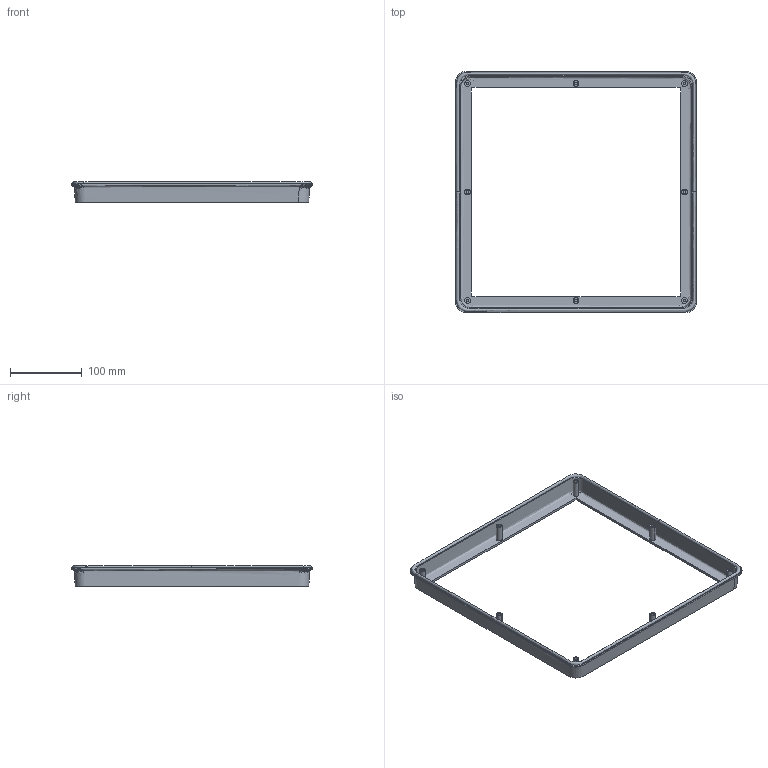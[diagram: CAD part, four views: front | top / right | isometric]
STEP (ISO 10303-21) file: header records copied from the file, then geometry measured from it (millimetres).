
FILE_DESCRIPTION(/* description */ (''),/* implementation_level */ '2;1');
FILE_NAME(/* name */ 'FPFA20 (x clienti)',/* time_stamp */ '2012-11-14T08:19:47+01:00',/* author */ (''),/* organization */ (''),/* preprocessor_version */ 'ST-DEVELOPER v10',/* originating_system */ '',/* authorisation */ '');
FILE_SCHEMA (('CONFIG_CONTROL_DESIGN'));
Length unit declared in the file: millimetre
Products named in the file (1): 1
Bounding box: 335.46 x 335.46 x 29 mm (x, y, z)
Volume: 653151.5 mm3; surface area: 97630.5 mm2
Topology: 1 solids, 1 shells, 105 faces, 233 edges, 136 vertices
Faces by surface type: bspline 101, plane 4
Entity records: 8062 total; most frequent: CARTESIAN_POINT 6684, ORIENTED_EDGE 466, EDGE_CURVE 233, VERTEX_POINT 136, EDGE_LOOP 113, B_SPLINE_CURVE_WITH_KNOTS 108, ADVANCED_FACE 105, FACE_OUTER_BOUND 105
